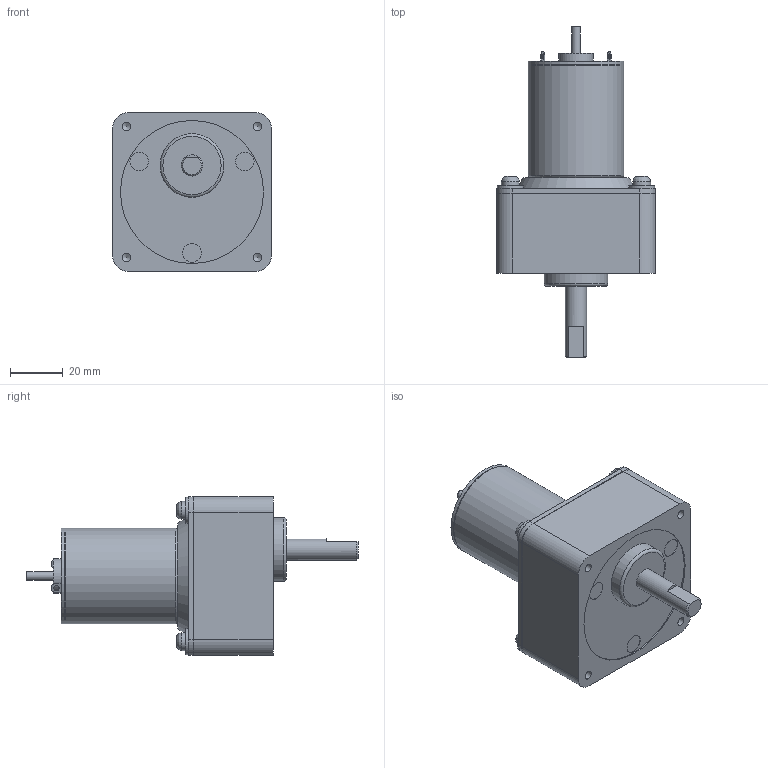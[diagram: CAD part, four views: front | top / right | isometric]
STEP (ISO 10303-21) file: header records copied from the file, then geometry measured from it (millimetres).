
FILE_DESCRIPTION((''),'2;1');
FILE_NAME('C:\Documents and Settings\SSEGAWA\デスクトップ\TP-3644L-CM-2.stp','2013-07-22T17:00:32',('SSEGAWA'),(''),'Autodesk Inventor 2010','Autodesk Inventor 2010','');
FILE_SCHEMA(('CONFIG_CONTROL_DESIGN'));
Length unit declared in the file: millimetre
Products named in the file (1): tp_3644l_cm-2_Shrinkwrap_1
Bounding box: 60 x 125.3 x 60 mm (x, y, z)
Volume: 168143.1 mm3; surface area: 22240.4 mm2
Topology: 1 solids, 4 shells, 111 faces, 237 edges, 157 vertices
Faces by surface type: plane 51, cylinder 35, bspline 20, torus 3, cone 2
Full cylindrical faces by diameter (mm): 3 x1, 3.175 x1, 3.5 x1, 6.8 x4, 7 x3, 8 x1, 9.8 x4, 13 x1, 24 x1, 35.6 x1, 36 x2, 54 x1
Entity records: 3142 total; most frequent: CARTESIAN_POINT 875, DIRECTION 454, ORIENTED_EDGE 346, AXIS2_PLACEMENT_3D 191, EDGE_LOOP 183, EDGE_CURVE 173, VERTEX_POINT 138, STYLED_ITEM 112
